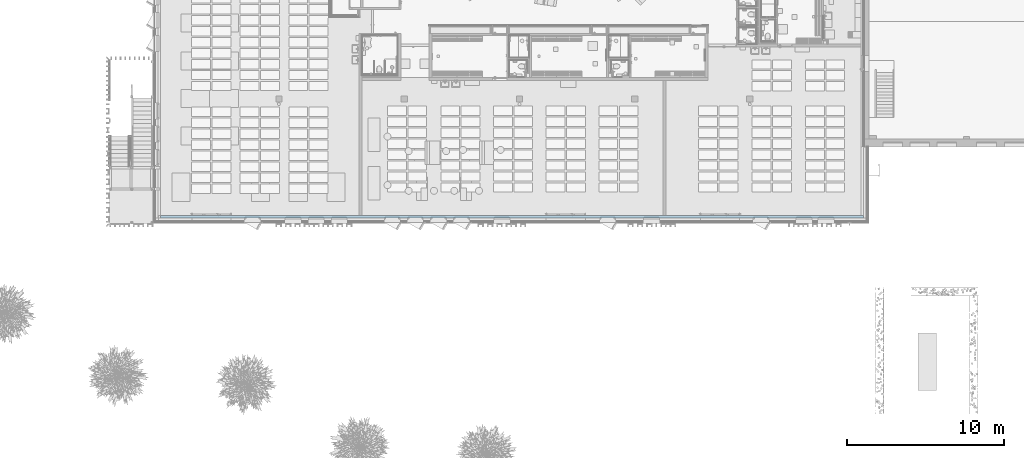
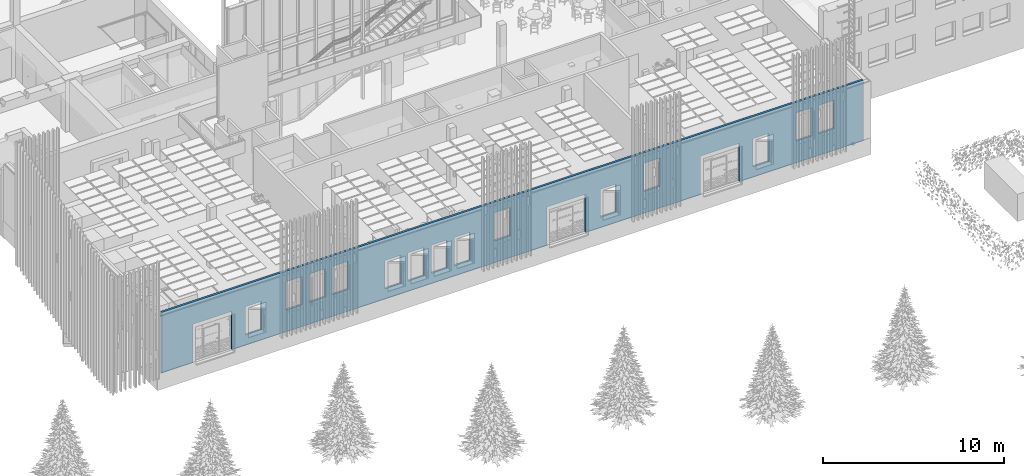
# One storey, part 179 of 301: 1 building element part, 20 openings, 1 element without a shape of its own.
"""IFC2X3 building model written with IfcOpenShell, lengths in millimetres."""

from ifc_helpers import new_model, entity, si_unit, converted_unit, derived_unit, money_unit, direction, frame, origin_with_axes, place, context, subcontext, project, spatial, faceted_brep, material, type_object, element, aggregate, save


model = new_model("IFC2X3")

# Units and contexts
model_context = context("Model", 3, precision=0.01, world=origin_with_axes(), true_north=direction((0.0, 1.0)))
body_context = subcontext(model_context, "Body", "Model", "MODEL_VIEW")
ifc_project = project(units=[si_unit("LENGTHUNIT", "METRE", prefix="MILLI"), si_unit("AREAUNIT", "SQUARE_METRE"), si_unit("VOLUMEUNIT", "CUBIC_METRE"), converted_unit("PLANEANGLEUNIT", "DEGREE", entity("IfcPlaneAngleMeasure", 0.0174532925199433), si_unit("PLANEANGLEUNIT", "RADIAN"), dimensions=[0, 0, 0, 0, 0, 0, 0]), money_unit("EUR"), converted_unit("TIMEUNIT", "Year", entity("IfcTimeMeasure", 31557600.0), si_unit("TIMEUNIT", "SECOND"), dimensions=[0, 0, 1, 0, 0, 0, 0]), si_unit("MASSUNIT", "GRAM", prefix="KILO"), si_unit("THERMODYNAMICTEMPERATUREUNIT", "DEGREE_CELSIUS"), si_unit("LUMINOUSINTENSITYUNIT", "LUMEN"), si_unit("ENERGYUNIT", "JOULE", prefix="MEGA"), derived_unit("THERMALCONDUCTANCEUNIT", [(si_unit("POWERUNIT", "WATT"), 1), (si_unit("LENGTHUNIT", "METRE"), -1), (si_unit("THERMODYNAMICTEMPERATUREUNIT", "KELVIN"), -1)]), derived_unit("SPECIFICHEATCAPACITYUNIT", [(si_unit("ENERGYUNIT", "JOULE"), 1), (si_unit("MASSUNIT", "GRAM", prefix="KILO"), -1), (si_unit("THERMODYNAMICTEMPERATUREUNIT", "KELVIN"), -1)]), derived_unit("MASSDENSITYUNIT", [(si_unit("MASSUNIT", "GRAM", prefix="KILO"), 1), (si_unit("VOLUMEUNIT", "CUBIC_METRE"), -1)])], contexts=[model_context])

# Site, building, storey
site_placement = place(None, frame((0.0, 0.0, 8650.0), z_axis=(0.0, 0.0, 1.0), x_axis=(1.0, 0.0, 0.0)))
site = spatial("IfcSite", under=ifc_project, at=site_placement, Name="43301:001:0844", CompositionType="ELEMENT")
building_placement = place(site_placement, origin_with_axes())
building = spatial("IfcBuilding", under=site, at=building_placement, Name="Kuressaare Ametikooli tuulikute mehaanikute õppekorpus", CompositionType="ELEMENT")
storey_placement = place(building_placement, origin_with_axes())
storey = spatial("IfcBuildingStorey", under=building, at=storey_placement, Name="1.korrus", CompositionType="ELEMENT", Elevation=0.0)

# Wall, openings, building element part
wall_type = type_object("IfcWallType", Name="VS1 437", PredefinedType="NOTDEFINED")
wall_placement = place(storey_placement, frame((133024.9464416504, 9123.838490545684, 0.0), z_axis=(0.0, 0.0, 1.0), x_axis=(-1.0, 0.0, 0.0)))
wall = element("IfcWall", 1, at=wall_placement, inside=storey, type_object=wall_type, Name="Sisesein")
opening_1_placement = place(wall_placement, frame((26976.99415685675, 0.0, 700.0), z_axis=(0.0, 0.0, 1.0), x_axis=(1.0, 0.0, 0.0)))
element("IfcOpeningElement", 2, at=opening_1_placement, cuts=wall, Name="A-1g", context=body_context, shape_type="Brep", body=[
    faceted_brep([(-504.9999999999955, 219.9999999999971, 0.0), (-504.9999999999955, 219.9999999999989, 1910.0), (-504.9999999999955, 437.9999999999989, 1910.0), (-504.9999999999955, 437.9999999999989, 0.0), (-504.9999999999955, -1.000000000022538, 0.0), (-504.9999999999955, -1.000000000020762, 1910.0), (504.9999999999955, 219.9999999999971, 1910.0), (504.9999999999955, 437.9999999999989, 1910.0), (504.9999999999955, -1.000000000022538, 1910.0), (504.9999999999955, 437.9999999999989, 0.0), (504.9999999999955, 219.9999999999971, 0.0), (504.9999999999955, -1.000000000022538, 0.0)], [[[0, 1, 2, 3]], [[1, 0, 4, 5]], [[6, 7, 2, 1, 5, 8]], [[7, 9, 3, 2]], [[0, 3, 9, 10, 11, 4]], [[5, 4, 11, 8]], [[6, 10, 9, 7]], [[10, 6, 8, 11]]]),
])
opening_2_placement = place(wall_placement, frame((29926.99415685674, 0.0, 700.0000000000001), z_axis=(0.0, 0.0, 1.0), x_axis=(1.0, 0.0, 0.0)))
element("IfcOpeningElement", 3, at=opening_2_placement, cuts=wall, Name="A-1g", context=body_context, shape_type="Brep", body=[
    faceted_brep([(-504.9999999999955, 219.9999999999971, 0.0), (-504.9999999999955, 219.9999999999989, 1910.0), (-504.9999999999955, 437.9999999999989, 1910.0), (-504.9999999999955, 437.9999999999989, 0.0), (-504.9999999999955, -1.000000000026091, 0.0), (-504.9999999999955, -1.000000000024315, 1910.0), (504.9999999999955, 219.9999999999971, 1910.0), (504.9999999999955, 437.9999999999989, 1910.0), (504.9999999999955, -1.000000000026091, 1910.0), (504.9999999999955, 437.9999999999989, 0.0), (504.9999999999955, 219.9999999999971, 0.0), (504.9999999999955, -1.000000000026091, 0.0)], [[[0, 1, 2, 3]], [[1, 0, 4, 5]], [[6, 7, 2, 1, 5, 8]], [[7, 9, 3, 2]], [[0, 3, 9, 10, 11, 4]], [[5, 4, 11, 8]], [[6, 10, 9, 7]], [[10, 6, 8, 11]]]),
])
opening_3_placement = place(wall_placement, frame((2241.190539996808, 0.0, 1475.000000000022), z_axis=(0.0, 0.0, 1.0), x_axis=(1.0, 0.0, 0.0)))
element("IfcOpeningElement", 4, at=opening_3_placement, cuts=wall, Name="A-1g,SE", context=body_context, shape_type="Brep", body=[
    faceted_brep([(-504.9999999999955, 220.0000000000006, 0.0), (-504.9999999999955, 220.0000000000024, 1910.0), (-504.9999999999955, 437.9999999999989, 1910.0), (-504.9999999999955, 437.9999999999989, 0.0), (-504.9999999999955, -1.000000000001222, 0.0), (-504.9999999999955, -0.9999999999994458, 1910.0), (504.9999999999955, 220.0000000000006, 1910.0), (504.9999999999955, 437.9999999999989, 1910.0), (504.9999999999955, -1.000000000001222, 1910.0), (504.9999999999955, 437.9999999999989, 0.0), (504.9999999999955, 220.0000000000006, 0.0), (504.9999999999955, -1.000000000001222, 0.0)], [[[0, 1, 2, 3]], [[1, 0, 4, 5]], [[6, 7, 2, 1, 5, 8]], [[7, 9, 3, 2]], [[0, 3, 9, 10, 11, 4]], [[5, 4, 11, 8]], [[6, 10, 9, 7]], [[10, 6, 8, 11]]]),
])
opening_4_placement = place(wall_placement, frame((13381.72835363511, 0.0, 1475.000000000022), z_axis=(0.0, 0.0, 1.0), x_axis=(1.0, 0.0, 0.0)))
element("IfcOpeningElement", 5, at=opening_4_placement, cuts=wall, Name="A-1g,SE", context=body_context, shape_type="Brep", body=[
    faceted_brep([(-504.9999999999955, 219.9999999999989, 0.0), (-504.9999999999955, 220.0000000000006, 1910.0), (-504.9999999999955, 437.9999999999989, 1910.0), (-504.9999999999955, 437.9999999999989, 0.0), (-504.9999999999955, -1.000000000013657, 0.0), (-504.9999999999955, -1.00000000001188, 1910.0), (504.9999999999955, 219.9999999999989, 1910.0), (504.9999999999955, 437.9999999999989, 1910.0), (504.9999999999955, -1.000000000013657, 1910.0), (504.9999999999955, 437.9999999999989, 0.0), (504.9999999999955, 219.9999999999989, 0.0), (504.9999999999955, -1.000000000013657, 0.0)], [[[0, 1, 2, 3]], [[1, 0, 4, 5]], [[6, 7, 2, 1, 5, 8]], [[7, 9, 3, 2]], [[0, 3, 9, 10, 11, 4]], [[5, 4, 11, 8]], [[6, 10, 9, 7]], [[10, 6, 8, 11]]]),
])
opening_5_placement = place(wall_placement, frame((25501.99415685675, 0.0, 700.0), z_axis=(0.0, 0.0, 1.0), x_axis=(1.0, 0.0, 0.0)))
element("IfcOpeningElement", 6, at=opening_5_placement, cuts=wall, Name="A-1g", context=body_context, shape_type="Brep", body=[
    faceted_brep([(-504.9999999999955, 219.9999999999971, 0.0), (-504.9999999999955, 219.9999999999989, 1910.0), (-504.9999999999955, 437.9999999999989, 1910.0), (-504.9999999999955, 437.9999999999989, 0.0), (-504.9999999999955, -1.000000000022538, 0.0), (-504.9999999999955, -1.000000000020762, 1910.0), (504.9999999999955, 219.9999999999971, 1910.0), (504.9999999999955, 437.9999999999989, 1910.0), (504.9999999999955, -1.000000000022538, 1910.0), (504.9999999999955, 437.9999999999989, 0.0), (504.9999999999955, 219.9999999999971, 0.0), (504.9999999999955, -1.000000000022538, 0.0)], [[[0, 1, 2, 3]], [[1, 0, 4, 5]], [[6, 7, 2, 1, 5, 8]], [[7, 9, 3, 2]], [[0, 3, 9, 10, 11, 4]], [[5, 4, 11, 8]], [[6, 10, 9, 7]], [[10, 6, 8, 11]]]),
])
opening_6_placement = place(wall_placement, frame((6401.877929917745, 0.0, 700.0), z_axis=(0.0, 0.0, 1.0), x_axis=(1.0, 0.0, 0.0)))
element("IfcOpeningElement", 7, at=opening_6_placement, cuts=wall, Name="A-1g", context=body_context, shape_type="Brep", body=[
    faceted_brep([(-504.9999999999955, 220.0000000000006, 0.0), (-504.9999999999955, 220.0000000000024, 1910.0), (-504.9999999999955, 437.9999999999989, 1910.0), (-504.9999999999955, 437.9999999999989, 0.0), (-504.9999999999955, -1.000000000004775, 0.0), (-504.9999999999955, -1.000000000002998, 1910.0), (504.9999999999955, 220.0000000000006, 1910.0), (504.9999999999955, 437.9999999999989, 1910.0), (504.9999999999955, -1.000000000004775, 1910.0), (504.9999999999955, 437.9999999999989, 0.0), (504.9999999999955, 220.0000000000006, 0.0), (504.9999999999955, -1.000000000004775, 0.0)], [[[0, 1, 2, 3]], [[1, 0, 4, 5]], [[6, 7, 2, 1, 5, 8]], [[7, 9, 3, 2]], [[0, 3, 9, 10, 11, 4]], [[5, 4, 11, 8]], [[6, 10, 9, 7]], [[10, 6, 8, 11]]]),
])
opening_7_placement = place(wall_placement, frame((22926.99691245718, 0.0, 1475.000000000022), z_axis=(0.0, 0.0, 1.0), x_axis=(1.0, 0.0, 0.0)))
element("IfcOpeningElement", 8, at=opening_7_placement, cuts=wall, Name="A-1g,SE", context=body_context, shape_type="Brep", body=[
    faceted_brep([(-504.9999999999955, 219.9999999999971, 0.0), (-504.9999999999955, 219.9999999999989, 1910.0), (-504.9999999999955, 437.9999999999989, 1910.0), (-504.9999999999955, 437.9999999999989, 0.0), (-504.9999999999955, -1.000000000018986, 0.0), (-504.9999999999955, -1.000000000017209, 1910.0), (504.9999999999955, 219.9999999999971, 1910.0), (504.9999999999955, 437.9999999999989, 1910.0), (504.9999999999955, -1.000000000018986, 1910.0), (504.9999999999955, 437.9999999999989, 0.0), (504.9999999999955, 219.9999999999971, 0.0), (504.9999999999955, -1.000000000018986, 0.0)], [[[0, 1, 2, 3]], [[1, 0, 4, 5]], [[6, 7, 2, 1, 5, 8]], [[7, 9, 3, 2]], [[0, 3, 9, 10, 11, 4]], [[5, 4, 11, 8]], [[6, 10, 9, 7]], [[10, 6, 8, 11]]]),
])
opening_8_placement = place(wall_placement, frame((38843.87792991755, 0.0, 700.0), z_axis=(0.0, 0.0, 1.0), x_axis=(1.0, 0.0, 0.0)))
element("IfcOpeningElement", 9, at=opening_8_placement, cuts=wall, Name="A-1g", context=body_context, shape_type="Brep", body=[
    faceted_brep([(-504.9999999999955, 219.9999999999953, 0.0), (-504.9999999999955, 219.9999999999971, 1910.0), (-504.9999999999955, 437.9999999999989, 1910.0), (-504.9999999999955, 437.9999999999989, 0.0), (-504.9999999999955, -1.000000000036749, 0.0), (-504.9999999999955, -1.000000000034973, 1910.0), (504.9999999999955, 219.9999999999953, 1910.0), (504.9999999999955, 437.9999999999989, 1910.0), (504.9999999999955, -1.000000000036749, 1910.0), (504.9999999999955, 437.9999999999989, 0.0), (504.9999999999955, 219.9999999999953, 0.0), (504.9999999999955, -1.000000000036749, 0.0)], [[[0, 1, 2, 3]], [[1, 0, 4, 5]], [[6, 7, 2, 1, 5, 8]], [[7, 9, 3, 2]], [[0, 3, 9, 10, 11, 4]], [[5, 4, 11, 8]], [[6, 10, 9, 7]], [[10, 6, 8, 11]]]),
])
opening_9_placement = place(wall_placement, frame((16176.99691245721, 0.0, 700.0), z_axis=(0.0, 0.0, 1.0), x_axis=(1.0, 0.0, 0.0)))
element("IfcOpeningElement", 10, at=opening_9_placement, cuts=wall, Name="A-1g", context=body_context, shape_type="Brep", body=[
    faceted_brep([(-504.9999999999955, 219.9999999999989, 0.0), (-504.9999999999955, 220.0000000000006, 1910.0), (-504.9999999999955, 437.9999999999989, 1910.0), (-504.9999999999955, 437.9999999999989, 0.0), (-504.9999999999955, -1.000000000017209, 0.0), (-504.9999999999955, -1.000000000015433, 1910.0), (504.9999999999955, 219.9999999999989, 1910.0), (504.9999999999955, 437.9999999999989, 1910.0), (504.9999999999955, -1.000000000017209, 1910.0), (504.9999999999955, 437.9999999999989, 0.0), (504.9999999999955, 219.9999999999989, 0.0), (504.9999999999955, -1.000000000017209, 0.0)], [[[0, 1, 2, 3]], [[1, 0, 4, 5]], [[6, 7, 2, 1, 5, 8]], [[7, 9, 3, 2]], [[0, 3, 9, 10, 11, 4]], [[5, 4, 11, 8]], [[6, 10, 9, 7]], [[10, 6, 8, 11]]]),
])
opening_10_placement = place(wall_placement, frame((3661.862783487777, 0.0, 1475.000000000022), z_axis=(0.0, 0.0, 1.0), x_axis=(1.0, 0.0, 0.0)))
element("IfcOpeningElement", 11, at=opening_10_placement, cuts=wall, Name="A-1g,SE", context=body_context, shape_type="Brep", body=[
    faceted_brep([(-504.9999999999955, 220.0000000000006, 0.0), (-504.9999999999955, 220.0000000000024, 1910.0), (-504.9999999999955, 437.9999999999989, 1910.0), (-504.9999999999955, 437.9999999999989, 0.0), (-504.9999999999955, -1.000000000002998, 0.0), (-504.9999999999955, -1.000000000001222, 1910.0), (504.9999999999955, 220.0000000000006, 1910.0), (504.9999999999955, 437.9999999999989, 1910.0), (504.9999999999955, -1.000000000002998, 1910.0), (504.9999999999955, 437.9999999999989, 0.0), (504.9999999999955, 220.0000000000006, 0.0), (504.9999999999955, -1.000000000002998, 0.0)], [[[0, 1, 2, 3]], [[1, 0, 4, 5]], [[6, 7, 2, 1, 5, 8]], [[7, 9, 3, 2]], [[0, 3, 9, 10, 11, 4]], [[5, 4, 11, 8]], [[6, 10, 9, 7]], [[10, 6, 8, 11]]]),
])
opening_11_placement = place(wall_placement, frame((36251.877858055, 0.0, 1475.000000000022), z_axis=(0.0, 0.0, 1.0), x_axis=(1.0, 0.0, 0.0)))
element("IfcOpeningElement", 12, at=opening_11_placement, cuts=wall, Name="A-1g,SE", context=body_context, shape_type="Brep", body=[
    faceted_brep([(-504.9999999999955, 219.9999999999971, 0.0), (-504.9999999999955, 219.9999999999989, 1910.0), (-504.9999999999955, 437.9999999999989, 1910.0), (-504.9999999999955, 437.9999999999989, 0.0), (-504.9999999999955, -1.00000000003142, 0.0), (-504.9999999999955, -1.000000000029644, 1910.0), (504.9999999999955, 219.9999999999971, 1910.0), (504.9999999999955, 437.9999999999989, 1910.0), (504.9999999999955, -1.00000000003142, 1910.0), (504.9999999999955, 437.9999999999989, 0.0), (504.9999999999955, 219.9999999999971, 0.0), (504.9999999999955, -1.00000000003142, 0.0)], [[[0, 1, 2, 3]], [[1, 0, 4, 5]], [[6, 7, 2, 1, 5, 8]], [[7, 9, 3, 2]], [[0, 3, 9, 10, 11, 4]], [[5, 4, 11, 8]], [[6, 10, 9, 7]], [[10, 6, 8, 11]]]),
])
opening_12_placement = place(wall_placement, frame((33301.87785805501, 0.0, 1475.000000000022), z_axis=(0.0, 0.0, 1.0), x_axis=(1.0, 0.0, 0.0)))
element("IfcOpeningElement", 13, at=opening_12_placement, cuts=wall, Name="A-1g,SE", context=body_context, shape_type="Brep", body=[
    faceted_brep([(-504.9999999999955, 219.9999999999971, 0.0), (-504.9999999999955, 219.9999999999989, 1910.0), (-504.9999999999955, 437.9999999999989, 1910.0), (-504.9999999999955, 437.9999999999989, 0.0), (-504.9999999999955, -1.000000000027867, 0.0), (-504.9999999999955, -1.000000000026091, 1910.0), (504.9999999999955, 219.9999999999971, 1910.0), (504.9999999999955, 437.9999999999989, 1910.0), (504.9999999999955, -1.000000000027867, 1910.0), (504.9999999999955, 437.9999999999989, 0.0), (504.9999999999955, 219.9999999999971, 0.0), (504.9999999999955, -1.000000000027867, 0.0)], [[[0, 1, 2, 3]], [[1, 0, 4, 5]], [[6, 7, 2, 1, 5, 8]], [[7, 9, 3, 2]], [[0, 3, 9, 10, 11, 4]], [[5, 4, 11, 8]], [[6, 10, 9, 7]], [[10, 6, 8, 11]]]),
])
opening_13_placement = place(wall_placement, frame((34776.877858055, 0.0, 1475.000000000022), z_axis=(0.0, 0.0, 1.0), x_axis=(1.0, 0.0, 0.0)))
element("IfcOpeningElement", 14, at=opening_13_placement, cuts=wall, Name="A-1g,SE", context=body_context, shape_type="Brep", body=[
    faceted_brep([(-504.9999999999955, 219.9999999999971, 0.0), (-504.9999999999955, 219.9999999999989, 1910.0), (-504.9999999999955, 437.9999999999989, 1910.0), (-504.9999999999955, 437.9999999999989, 0.0), (-504.9999999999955, -1.000000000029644, 0.0), (-504.9999999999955, -1.000000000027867, 1910.0), (504.9999999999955, 219.9999999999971, 1910.0), (504.9999999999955, 437.9999999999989, 1910.0), (504.9999999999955, -1.000000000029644, 1910.0), (504.9999999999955, 437.9999999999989, 0.0), (504.9999999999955, 219.9999999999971, 0.0), (504.9999999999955, -1.000000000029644, 0.0)], [[[0, 1, 2, 3]], [[1, 0, 4, 5]], [[6, 7, 2, 1, 5, 8]], [[7, 9, 3, 2]], [[0, 3, 9, 10, 11, 4]], [[5, 4, 11, 8]], [[6, 10, 9, 7]], [[10, 6, 8, 11]]]),
])
opening_14_placement = place(wall_placement, frame((18848.67342500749, 0.0, 0.0), z_axis=(0.0, 0.0, 1.0), x_axis=(1.0, 0.0, 0.0)))
element("IfcOpeningElement", 15, at=opening_14_placement, cuts=wall, Name="Ava seinas", context=body_context, shape_type="Brep", body=[
    faceted_brep([(-1219.999999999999, 139.9999999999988, 0.0), (-1219.999999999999, 140.0000000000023, 2570.0), (-1219.999999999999, 438.0000000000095, 2570.0), (-1219.999999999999, 438.0000000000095, 0.0), (1219.999999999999, 140.0000000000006, 2570.0), (-1250.0, 139.9999999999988, 0.0), (-1250.0, 140.0000000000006, 2600.0), (1250.0, 139.9999999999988, 2600.0), (1250.0, 139.9999999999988, 0.0), (1219.999999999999, 139.9999999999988, 0.0), (1219.999999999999, 438.0000000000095, 2570.0), (1219.999999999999, 438.0000000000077, 0.0), (1250.0, -1.00000000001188, 0.0), (-1250.0, -1.00000000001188, 0.0), (-1250.0, -1.000000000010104, 2600.0), (1250.0, -1.00000000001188, 2600.0)], [[[0, 1, 2, 3]], [[4, 1, 0, 5, 6, 7, 8, 9]], [[1, 4, 10, 2]], [[10, 11, 3, 2]], [[9, 0, 3, 11]], [[0, 9, 8, 12, 13, 5]], [[6, 5, 13, 14]], [[7, 6, 14, 15]], [[8, 7, 15, 12]], [[4, 9, 11, 10]], [[14, 13, 12, 15]]]),
])
opening_15_placement = place(wall_placement, frame((41461.22668595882, 0.0, 0.0), z_axis=(0.0, 0.0, 1.0), x_axis=(1.0, 0.0, 0.0)))
element("IfcOpeningElement", 16, at=opening_15_placement, cuts=wall, Name="Ava seinas", context=body_context, shape_type="Brep", body=[
    faceted_brep([(-1219.999999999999, 139.9999999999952, 0.0), (-1219.999999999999, 139.999999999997, 2570.0), (-1219.999999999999, 438.0000000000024, 2570.0), (-1219.999999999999, 438.0000000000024, 0.0), (1219.999999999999, 139.9999999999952, 2570.0), (-1250.0, 139.9999999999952, 0.0), (-1250.0, 139.999999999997, 2600.0), (1250.0, 139.9999999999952, 2600.0), (1250.0, 139.9999999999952, 0.0), (1219.999999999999, 139.9999999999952, 0.0), (1219.999999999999, 438.0000000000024, 2570.0), (1219.999999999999, 438.0000000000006, 0.0), (1250.0, -1.000000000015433, 0.0), (-1250.0, -1.000000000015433, 0.0), (-1250.0, -1.000000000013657, 2600.0), (1250.0, -1.000000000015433, 2600.0)], [[[0, 1, 2, 3]], [[4, 1, 0, 5, 6, 7, 8, 9]], [[1, 4, 10, 2]], [[10, 11, 3, 2]], [[9, 0, 3, 11]], [[0, 9, 8, 12, 13, 5]], [[6, 5, 13, 14]], [[7, 6, 14, 15]], [[8, 7, 15, 12]], [[4, 9, 11, 10]], [[14, 13, 12, 15]]]),
])
opening_16_placement = place(wall_placement, frame((18848.67342500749, 0.0, 0.0), z_axis=(0.0, 0.0, 1.0), x_axis=(1.0, 0.0, 0.0)))
element("IfcOpeningElement", 17, at=opening_16_placement, cuts=wall, Name="TÕU25x26", context=body_context, shape_type="Brep", body=[
    faceted_brep([(-1250.0, 436.9999999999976, 0.0), (-1250.0, 436.9999999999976, 2600.0), (-1250.0, 437.9999999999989, 2600.0), (-1250.0, 437.9999999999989, 0.0), (-1250.0, -0.9999999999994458, 0.0), (-1250.0, -0.9999999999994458, 2600.0), (1250.0, 436.9999999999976, 2600.0), (1250.0, 437.9999999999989, 2600.0), (1250.0, 437.9999999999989, 0.0), (1250.0, 436.9999999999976, 0.0), (1250.0, -0.9999999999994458, 0.0), (1250.0, -0.9999999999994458, 2600.0)], [[[0, 1, 2, 3]], [[1, 0, 4, 5]], [[1, 6, 7, 2]], [[8, 3, 2, 7]], [[9, 0, 3, 8]], [[0, 9, 10, 4]], [[5, 4, 10, 11]], [[6, 1, 5, 11]], [[6, 9, 8, 7]], [[9, 6, 11, 10]]]),
])
opening_17_placement = place(wall_placement, frame((9019.226685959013, 0.0, 0.0), z_axis=(0.0, 0.0, 1.0), x_axis=(1.0, 0.0, 0.0)))
element("IfcOpeningElement", 18, at=opening_17_placement, cuts=wall, Name="Ava seinas", context=body_context, shape_type="Brep", body=[
    faceted_brep([(-1219.999999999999, 139.9999999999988, 0.0), (-1219.999999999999, 140.0000000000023, 2570.0), (-1219.999999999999, 438.0000000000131, 2570.0), (-1219.999999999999, 438.0000000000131, 0.0), (1219.999999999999, 140.0000000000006, 2570.0), (-1250.0, 139.9999999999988, 0.0), (-1250.0, 140.0000000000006, 2600.0), (1250.0, 139.9999999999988, 2600.0), (1250.0, 139.9999999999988, 0.0), (1219.999999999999, 139.9999999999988, 0.0), (1219.999999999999, 438.0000000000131, 2570.0), (1219.999999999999, 438.0000000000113, 0.0), (1250.0, -1.000000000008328, 0.0), (-1250.0, -1.000000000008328, 0.0), (-1250.0, -1.000000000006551, 2600.0), (1250.0, -1.000000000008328, 2600.0)], [[[0, 1, 2, 3]], [[4, 1, 0, 5, 6, 7, 8, 9]], [[1, 4, 10, 2]], [[10, 11, 3, 2]], [[9, 0, 3, 11]], [[0, 9, 8, 12, 13, 5]], [[6, 5, 13, 14]], [[7, 6, 14, 15]], [[8, 7, 15, 12]], [[4, 9, 11, 10]], [[14, 13, 12, 15]]]),
])
opening_18_placement = place(wall_placement, frame((28451.99415685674, 0.0, 700.0), z_axis=(0.0, 0.0, 1.0), x_axis=(1.0, 0.0, 0.0)))
element("IfcOpeningElement", 19, at=opening_18_placement, cuts=wall, Name="A-1g", context=body_context, shape_type="Brep", body=[
    faceted_brep([(-504.9999999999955, 219.9999999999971, 0.0), (-504.9999999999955, 219.9999999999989, 1910.0), (-504.9999999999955, 437.9999999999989, 1910.0), (-504.9999999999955, 437.9999999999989, 0.0), (-504.9999999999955, -1.000000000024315, 0.0), (-504.9999999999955, -1.000000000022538, 1910.0), (504.9999999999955, 219.9999999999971, 1910.0), (504.9999999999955, 437.9999999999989, 1910.0), (504.9999999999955, -1.000000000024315, 1910.0), (504.9999999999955, 437.9999999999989, 0.0), (504.9999999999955, 219.9999999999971, 0.0), (504.9999999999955, -1.000000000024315, 0.0)], [[[0, 1, 2, 3]], [[1, 0, 4, 5]], [[6, 7, 2, 1, 5, 8]], [[7, 9, 3, 2]], [[0, 3, 9, 10, 11, 4]], [[5, 4, 11, 8]], [[6, 10, 9, 7]], [[10, 6, 8, 11]]]),
])
opening_19_placement = place(wall_placement, frame((9019.226685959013, 0.0, 0.0), z_axis=(0.0, 0.0, 1.0), x_axis=(1.0, 0.0, 0.0)))
element("IfcOpeningElement", 20, at=opening_19_placement, cuts=wall, Name="TÕU25x26", context=body_context, shape_type="Brep", body=[
    faceted_brep([(-1250.0, 436.9999999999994, 0.0), (-1250.0, 436.9999999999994, 2600.0), (-1250.0, 438.0000000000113, 2600.0), (-1250.0, 438.0000000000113, 0.0), (-1250.0, -1.000000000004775, 0.0), (-1250.0, -1.000000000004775, 2600.0), (1250.0, 436.9999999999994, 2600.0), (1250.0, 438.0000000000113, 2600.0), (1250.0, 438.0000000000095, 0.0), (1250.0, 436.9999999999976, 0.0), (1250.0, -1.000000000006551, 0.0), (1250.0, -1.000000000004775, 2600.0)], [[[0, 1, 2, 3]], [[1, 0, 4, 5]], [[1, 6, 7, 2]], [[8, 3, 2, 7]], [[9, 0, 3, 8]], [[0, 9, 10, 4]], [[5, 4, 10, 11]], [[6, 1, 5, 11]], [[6, 9, 8, 7]], [[9, 6, 11, 10]]]),
])
opening_20_placement = place(wall_placement, frame((41461.22668595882, 0.0, 0.0), z_axis=(0.0, 0.0, 1.0), x_axis=(1.0, 0.0, 0.0)))
element("IfcOpeningElement", 21, at=opening_20_placement, cuts=wall, Name="TÕU25x26", context=body_context, shape_type="Brep", body=[
    faceted_brep([(-1250.0, 436.9999999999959, 0.0), (-1250.0, 436.9999999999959, 2600.0), (-1250.0, 438.0000000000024, 2600.0), (-1250.0, 438.0000000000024, 0.0), (-1250.0, -1.000000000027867, 0.0), (-1250.0, -1.000000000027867, 2600.0), (1250.0, 436.9999999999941, 2600.0), (1250.0, 438.0000000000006, 2600.0), (1250.0, 438.0000000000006, 0.0), (1250.0, 436.9999999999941, 0.0), (1250.0, -1.000000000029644, 0.0), (1250.0, -1.000000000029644, 2600.0)], [[[0, 1, 2, 3]], [[1, 0, 4, 5]], [[1, 6, 7, 2]], [[8, 3, 2, 7]], [[9, 0, 3, 8]], [[0, 9, 10, 4]], [[5, 4, 10, 11]], [[6, 1, 5, 11]], [[6, 9, 8, 7]], [[9, 6, 11, 10]]]),
])
ifc_material = material(Name="Puit - CLT")
building_element_part_placement = place(wall_placement, origin_with_axes())
building_element_part = element("IfcBuildingElementPart", 22, at=building_element_part_placement, material=ifc_material, Name="Puit - CLT", context=body_context, shape_type="Brep", body=[
    faceted_brep([(17598.67342500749, 139.9999999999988, 0.0), (10269.22668595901, 139.9999999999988, 0.0), (10269.22668595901, 139.9999999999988, 2600.0), (7769.226685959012, 140.0000000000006, 2600.0), (7769.226685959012, 139.9999999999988, 0.0), (-139.9999999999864, 140.0000000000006, 0.0), (-139.9999999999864, 140.0000000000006, 4100.0), (44706.71979646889, 139.999999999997, 4100.0), (44706.71979646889, 139.999999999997, 0.0), (42711.22668595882, 139.9999999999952, 0.0), (42711.22668595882, 139.9999999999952, 2600.0), (40211.22668595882, 139.999999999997, 2600.0), (40211.22668595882, 139.9999999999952, 0.0), (20098.67342500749, 139.9999999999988, 0.0), (20098.67342500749, 139.9999999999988, 2600.0), (17598.67342500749, 140.0000000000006, 2600.0), (27481.99415685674, 139.9999999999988, 700.0), (27481.99415685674, 139.9999999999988, 2610.0), (26471.99415685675, 139.9999999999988, 2610.0), (26471.99415685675, 139.9999999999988, 700.0), (29421.99415685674, 139.9999999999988, 700.0000000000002), (30431.99415685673, 139.9999999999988, 700.0000000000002), (30431.99415685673, 139.9999999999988, 2610.0), (29421.99415685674, 139.9999999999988, 2610.0), (24996.99415685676, 139.9999999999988, 2610.0), (24996.99415685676, 139.9999999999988, 700.0), (26006.99415685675, 139.9999999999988, 700.0), (26006.99415685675, 139.9999999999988, 2610.0), (2746.190539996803, 139.9999999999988, 3385.000000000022), (1736.190539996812, 139.9999999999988, 3385.000000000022), (1736.190539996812, 139.9999999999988, 1475.000000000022), (2746.190539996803, 139.9999999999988, 1475.000000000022), (13886.72835363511, 139.9999999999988, 1475.000000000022), (13886.72835363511, 139.9999999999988, 3385.000000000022), (12876.72835363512, 139.9999999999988, 3385.000000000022), (12876.72835363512, 139.9999999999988, 1475.000000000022), (22421.99691245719, 139.9999999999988, 1475.000000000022), (23431.99691245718, 139.9999999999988, 1475.000000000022), (23431.99691245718, 139.9999999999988, 3385.000000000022), (22421.99691245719, 139.9999999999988, 3385.000000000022), (5896.877929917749, 140.0000000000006, 2610.0), (5896.877929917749, 140.0000000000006, 700.0), (6906.87792991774, 140.0000000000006, 700.0), (6906.87792991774, 140.0000000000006, 2610.0), (16681.99691245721, 139.9999999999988, 2610.0), (15671.99691245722, 139.9999999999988, 2610.0), (15671.99691245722, 139.9999999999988, 700.0), (16681.99691245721, 139.9999999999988, 700.0), (4166.862783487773, 139.9999999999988, 1475.000000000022), (4166.862783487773, 140.0000000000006, 3385.000000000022), (3156.862783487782, 140.0000000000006, 3385.000000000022), (3156.862783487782, 139.9999999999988, 1475.000000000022), (38338.87792991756, 139.9999999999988, 700.0), (39348.87792991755, 139.9999999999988, 700.0), (39348.87792991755, 139.9999999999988, 2610.0), (38338.87792991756, 139.9999999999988, 2610.0), (32796.87785805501, 139.9999999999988, 3385.000000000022), (32796.87785805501, 139.9999999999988, 1475.000000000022), (33806.87785805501, 139.9999999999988, 1475.000000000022), (33806.87785805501, 139.9999999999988, 3385.000000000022), (35281.877858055, 139.999999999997, 3385.000000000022), (34271.87785805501, 139.999999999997, 3385.000000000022), (34271.87785805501, 139.999999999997, 1475.000000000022), (35281.877858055, 139.999999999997, 1475.000000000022), (36756.87785805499, 139.999999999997, 1475.000000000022), (36756.87785805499, 139.999999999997, 3385.000000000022), (35746.877858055, 139.999999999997, 3385.000000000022), (35746.877858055, 139.999999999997, 1475.000000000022), (28956.99415685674, 139.9999999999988, 700.0), (28956.99415685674, 139.9999999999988, 2610.0), (27946.99415685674, 139.9999999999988, 2610.0), (27946.99415685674, 139.9999999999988, 700.0), (17598.67342500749, 0.0, 0.0), (10269.22668595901, 0.0, 0.0), (10269.22668595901, 0.0, 2600.0), (7769.226685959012, 0.0, 2600.0), (7769.226685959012, 0.0, 0.0), (-139.9999999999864, 0.0, 0.0), (-139.9999999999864, 0.0, 4100.0), (44706.71979646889, 0.0, 4100.0), (44706.71979646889, 0.0, 0.0), (42711.22668595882, 0.0, 0.0), (42711.22668595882, 0.0, 2600.0), (40211.22668595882, 0.0, 2600.0), (40211.22668595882, 0.0, 0.0), (20098.67342500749, 0.0, 0.0), (20098.67342500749, 0.0, 2600.0), (17598.67342500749, 0.0, 2600.0), (27481.99415685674, 0.0, 700.0), (27481.99415685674, 0.0, 2610.0), (26471.99415685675, 0.0, 2610.0), (26471.99415685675, 0.0, 700.0), (29421.99415685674, 0.0, 700.0000000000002), (30431.99415685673, 0.0, 700.0000000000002), (30431.99415685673, 0.0, 2610.0), (29421.99415685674, 0.0, 2610.0), (24996.99415685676, 0.0, 2610.0), (24996.99415685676, 0.0, 700.0), (26006.99415685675, 0.0, 700.0), (26006.99415685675, 0.0, 2610.0), (1736.190539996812, 0.0, 3385.000000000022), (2746.190539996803, 0.0, 3385.000000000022), (1736.190539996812, 0.0, 1475.000000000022), (2746.190539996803, 0.0, 1475.000000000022), (13886.72835363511, 0.0, 1475.000000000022), (13886.72835363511, 0.0, 3385.000000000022), (12876.72835363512, 0.0, 3385.000000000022), (12876.72835363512, 0.0, 1475.000000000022), (22421.99691245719, 0.0, 1475.000000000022), (23431.99691245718, 0.0, 1475.000000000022), (23431.99691245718, 0.0, 3385.000000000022), (22421.99691245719, 0.0, 3385.000000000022), (5896.877929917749, 0.0, 2610.0), (5896.877929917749, 0.0, 700.0), (6906.87792991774, 0.0, 700.0), (6906.87792991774, 0.0, 2610.0), (15671.99691245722, 0.0, 2610.0), (16681.99691245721, 0.0, 2610.0), (15671.99691245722, 0.0, 700.0), (16681.99691245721, 0.0, 700.0), (4166.862783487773, 0.0, 1475.000000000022), (4166.862783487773, 0.0, 3385.000000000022), (3156.862783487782, 0.0, 3385.000000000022), (3156.862783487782, 0.0, 1475.000000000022), (38338.87792991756, 0.0, 700.0), (39348.87792991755, 0.0, 700.0), (39348.87792991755, 0.0, 2610.0), (38338.87792991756, 0.0, 2610.0), (32796.87785805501, 0.0, 3385.000000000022), (32796.87785805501, 0.0, 1475.000000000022), (33806.87785805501, 0.0, 1475.000000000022), (33806.87785805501, 0.0, 3385.000000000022), (34271.87785805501, 0.0, 3385.000000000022), (35281.877858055, 0.0, 3385.000000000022), (34271.87785805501, 0.0, 1475.000000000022), (35281.877858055, 0.0, 1475.000000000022), (36756.87785805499, 0.0, 1475.000000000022), (36756.87785805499, 0.0, 3385.000000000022), (35746.877858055, 0.0, 3385.000000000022), (35746.877858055, 0.0, 1475.000000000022), (28956.99415685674, 0.0, 700.0), (28956.99415685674, 0.0, 2610.0), (27946.99415685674, 0.0, 2610.0), (27946.99415685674, 0.0, 700.0)], [[[0, 1, 2, 3, 4, 5, 6, 7, 8, 9, 10, 11, 12, 13, 14, 15], [16, 17, 18, 19], [20, 21, 22, 23], [24, 25, 26, 27], [28, 29, 30, 31], [32, 33, 34, 35], [36, 37, 38, 39], [40, 41, 42, 43], [44, 45, 46, 47], [48, 49, 50, 51], [52, 53, 54, 55], [56, 57, 58, 59], [60, 61, 62, 63], [64, 65, 66, 67], [68, 69, 70, 71]], [[1, 0, 72, 73]], [[74, 2, 1, 73]], [[75, 3, 2, 74]], [[76, 4, 3, 75]], [[76, 77, 5, 4]], [[6, 5, 77, 78]], [[6, 78, 79, 7]], [[80, 8, 7, 79]], [[80, 81, 9, 8]], [[9, 81, 82, 10]], [[10, 82, 83, 11]], [[11, 83, 84, 12]], [[12, 84, 85, 13]], [[14, 13, 85, 86]], [[15, 14, 86, 87]], [[0, 15, 87, 72]], [[88, 89, 17, 16]], [[89, 90, 18, 17]], [[90, 91, 19, 18]], [[91, 88, 16, 19]], [[20, 92, 93, 21]], [[21, 93, 94, 22]], [[22, 94, 95, 23]], [[23, 95, 92, 20]], [[25, 24, 96, 97]], [[26, 25, 97, 98]], [[27, 26, 98, 99]], [[24, 27, 99, 96]], [[100, 29, 28, 101]], [[102, 30, 29, 100]], [[103, 31, 30, 102]], [[101, 28, 31, 103]], [[104, 105, 33, 32]], [[105, 106, 34, 33]], [[106, 107, 35, 34]], [[107, 104, 32, 35]], [[36, 108, 109, 37]], [[37, 109, 110, 38]], [[38, 110, 111, 39]], [[39, 111, 108, 36]], [[41, 40, 112, 113]], [[42, 41, 113, 114]], [[43, 42, 114, 115]], [[40, 43, 115, 112]], [[116, 45, 44, 117]], [[118, 46, 45, 116]], [[119, 47, 46, 118]], [[117, 44, 47, 119]], [[120, 121, 49, 48]], [[121, 122, 50, 49]], [[122, 123, 51, 50]], [[123, 120, 48, 51]], [[52, 124, 125, 53]], [[53, 125, 126, 54]], [[54, 126, 127, 55]], [[55, 127, 124, 52]], [[57, 56, 128, 129]], [[58, 57, 129, 130]], [[59, 58, 130, 131]], [[56, 59, 131, 128]], [[132, 61, 60, 133]], [[134, 62, 61, 132]], [[135, 63, 62, 134]], [[133, 60, 63, 135]], [[136, 137, 65, 64]], [[137, 138, 66, 65]], [[138, 139, 67, 66]], [[139, 136, 64, 67]], [[140, 141, 69, 68]], [[141, 142, 70, 69]], [[142, 143, 71, 70]], [[143, 140, 68, 71]], [[77, 76, 75, 74, 73, 72, 87, 86, 85, 84, 83, 82, 81, 80, 79, 78], [88, 91, 90, 89], [94, 93, 92, 95], [96, 99, 98, 97], [102, 100, 101, 103], [104, 107, 106, 105], [110, 109, 108, 111], [112, 115, 114, 113], [118, 116, 117, 119], [120, 123, 122, 121], [126, 125, 124, 127], [128, 131, 130, 129], [134, 132, 133, 135], [136, 139, 138, 137], [140, 143, 142, 141]]]),
])
aggregate(wall, [building_element_part])

save(model, "model.ifc")
